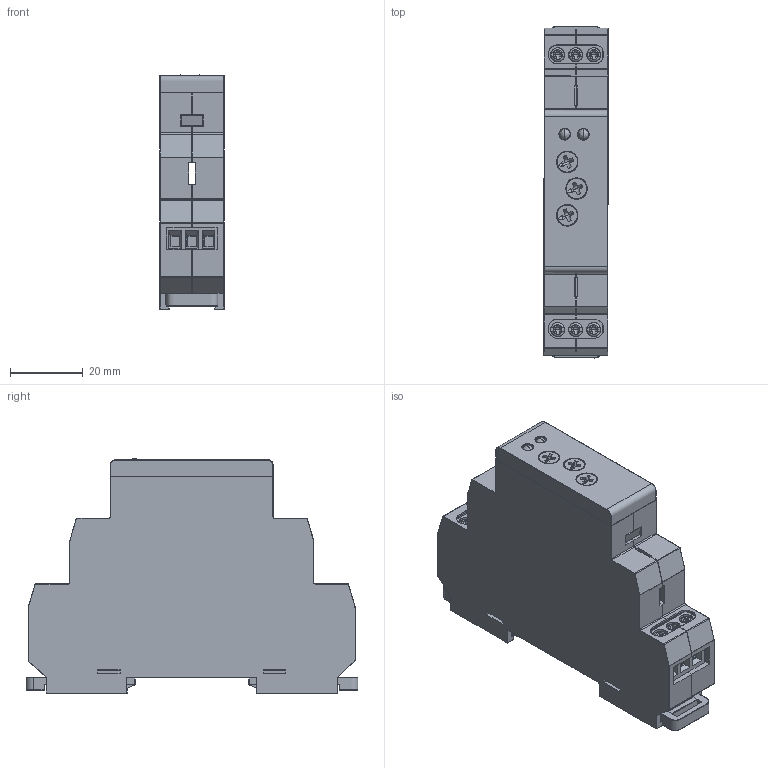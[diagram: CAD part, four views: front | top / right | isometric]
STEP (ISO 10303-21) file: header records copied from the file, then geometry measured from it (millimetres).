
FILE_DESCRIPTION (( 'STEP AP214' ), '1' );
FILE_NAME ('OptiRel C RT-91.STEP', '2019-06-24T09:47:16', ( '' ), ( '' ), 'SwSTEP 2.0', 'SolidWorks 2018', '' );
FILE_SCHEMA (( 'AUTOMOTIVE_DESIGN' ));
Length unit declared in the file: millimetre
Products named in the file (1): OptiRel C RT-91
Bounding box: 17.65 x 91.27 x 64.51 mm (x, y, z)
Surface area: 33408.5 mm2 (no closed solid volume)
Topology: 0 solids, 1625 shells, 1817 faces, 8702 edges, 8500 vertices
Faces by surface type: bspline 1047, plane 770
Entity records: 129954 total; most frequent: CARTESIAN_POINT 86371, ORIENTED_EDGE 9140, EDGE_CURVE 8676, VERTEX_POINT 8500, B_SPLINE_CURVE_WITH_KNOTS 6746, EDGE_LOOP 1865, ADVANCED_FACE 1817, FACE_OUTER_BOUND 1817
